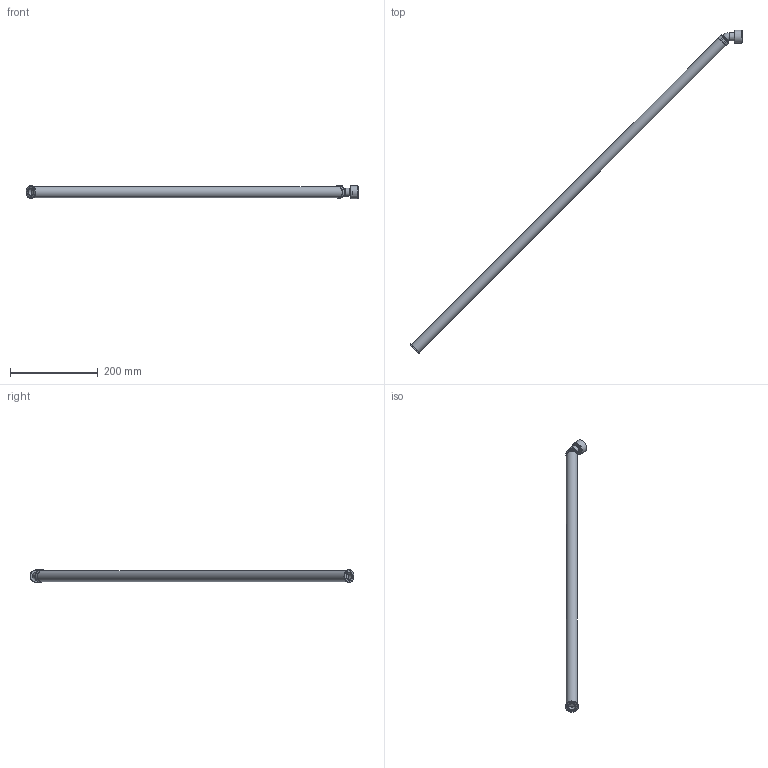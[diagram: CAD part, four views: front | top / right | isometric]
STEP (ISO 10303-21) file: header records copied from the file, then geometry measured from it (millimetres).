
FILE_DESCRIPTION( ( 'STEP AP203' ), '1' );
FILE_NAME( 'C:/Temp/Ganter_Step_05_03_2020/data/3_5/gn880_1/gn880_1_ans_abl/gn_880_1_b/Connector piece with drain hose GN 880.1-26-B-1000-T.stp', '2020-03-12T13:42:32', ( 'License CC BY-ND 4.0' ), ( 'CADENAS' ), ' ', 'PARTsolutions', ' ' );
FILE_SCHEMA( ( 'CONFIG_CONTROL_DESIGN' ) );
Length unit declared in the file: millimetre
Products named in the file (6): Connector piece with drain hose GN 880.1-26-B-1000-T; _Anschlussstueck mit Ablassschlauch GN 880.1-26-B-1000-T_a; _Anschlussstueck mit Ablassschlauch GN 880.1-26-B-1000-T_s; _Anschlussstueck mit Ablassschlauch GN 880.1-26-B-1000-T_dk; _Anschlussstueck mit Ablassschlauch GN 880.1-26-B-1000-T_sc; _Anschlussstueck mit Ablassschlauch GN 880.1-26-B-1000-T_dk2
Assembly tree (5 placements, depth 2):
  Connector piece with drain hose GN 880.1-26-B-1000-T
    _Anschlussstueck mit Ablassschlauch GN 880.1-26-B-1000-T_a
    _Anschlussstueck mit Ablassschlauch GN 880.1-26-B-1000-T_s
    _Anschlussstueck mit Ablassschlauch GN 880.1-26-B-1000-T_dk
    _Anschlussstueck mit Ablassschlauch GN 880.1-26-B-1000-T_sc
    _Anschlussstueck mit Ablassschlauch GN 880.1-26-B-1000-T_dk2
Bounding box: 757.67 x 738.91 x 31 mm (x, y, z)
Volume: 220378.7 mm3; surface area: 153206.9 mm2
Topology: 5 solids, 5 shells, 60 faces, 110 edges, 71 vertices
Faces by surface type: plane 27, cylinder 25, torus 5, cone 3
Full cylindrical faces by diameter (mm): 11.5 x1, 12.9 x1, 13 x2, 16.4 x1, 17 x2, 19 x6, 22 x1, 24.376 x1, 25 x2, 30 x2
Entity records: 1557 total; most frequent: DIRECTION 270, CARTESIAN_POINT 217, ORIENTED_EDGE 162, AXIS2_PLACEMENT_3D 123, EDGE_LOOP 106, FACE_OUTER_BOUND 84, EDGE_CURVE 81, VERTEX_POINT 70
